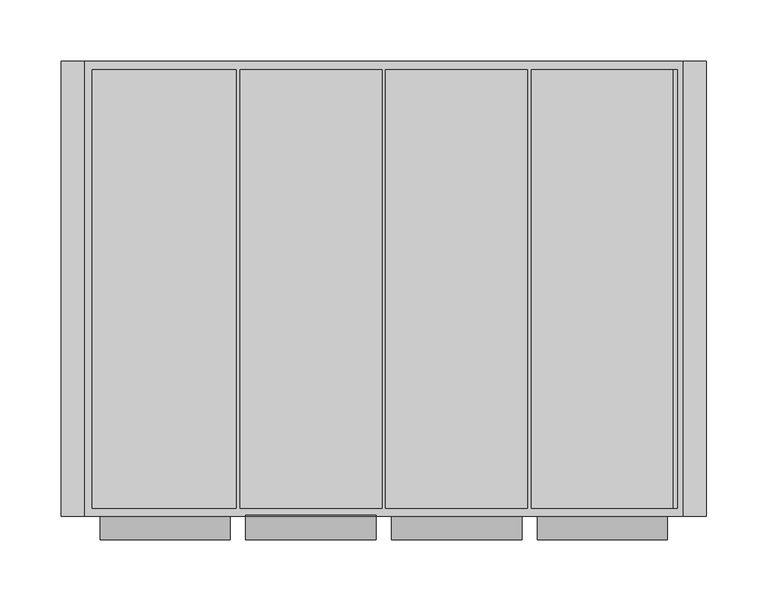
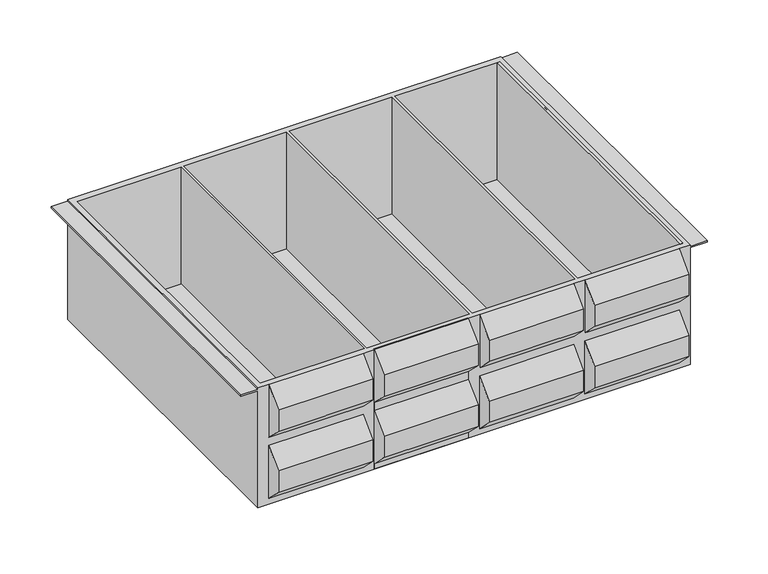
"""IFC4 building model written with IfcOpenShell, lengths in millimetres: furniture geometry."""

from ifc_helpers import new_model, si_unit, frame, origin, place, context, project, spatial, polyline, outline, extrude, faceted_brep, source, transform, mapped, element, save


def furniture_066802e6(model_context):
    return source(origin(), model_context, "Body", "SolidModel", [
        extrude(outline(polyline([(-188.9125, 1922.462503), (-169.8625, 1941.518853), (-169.8625, 1951.0438485), (-188.9125, 1970.0874985), (-188.9125, 1995.4875004), (-169.8498034, 2014.550197), (-169.06875, 2014.550197), (-169.06875, 1871.675197), (-169.8625, 1871.675197), (-169.8625, 1878.0252), (-188.9125, 1897.0625), (-188.9125, 1922.462503)])), frame((-119.0625, 0.0, 0.0), z_axis=(1.0, 0.0, 0.0), x_axis=(0.0, 1.0, 0.0)), (0.0, 0.0, 1.0), 106.3625),
        extrude(outline(polyline([(233.3752, 194.6275), (233.3752, -163.5125), (230.2002, -163.5125), (230.2002, 194.6275), (233.3752, 194.6275)])), frame((0.0, 0.0, 1874.7013688), z_axis=(0.0, 0.0, 1.0), x_axis=(1.0, 0.0, 0.0)), (0.0, 0.0, 1.0), 139.8488281),
        faceted_brep([(-238.125, -169.8625, 2014.550197), (-250.825, -169.8625, 2014.550197), (-250.825, -169.8625, 2012.95), (-269.875, -169.8625, 2012.95), (-269.875, -169.8625, 2011.3625), (-250.825, -169.8625, 2011.3625), (-250.825, -169.8625, 1871.675197), (238.125, -169.8625, 1871.675197), (238.125, -169.8625, 2011.3625), (257.175, -169.8625, 2011.3625), (257.175, -169.8625, 2012.95), (238.125, -169.8625, 2012.95), (238.125, -169.8625, 2014.550197), (225.4377, -169.8625, 2014.550197), (225.4377, -169.8625, 1951.0438484), (119.0625, -169.8625, 1951.0438484), (119.0625, -169.8625, 2014.550197), (106.3625, -169.8625, 2014.550197), (106.3625, -169.8625, 1951.0438485), (0.0, -169.8625, 1951.0438485), (0.0, -169.8625, 2014.550197), (-131.7625, -169.8625, 2014.550197), (-131.7625, -169.8625, 1951.0438485), (-238.125, -169.8625, 1951.0438485), (-131.7625, -169.8625, 1941.518853), (-131.7625, -169.8625, 1878.0252), (-238.125, -169.8625, 1878.0252), (-238.125, -169.8625, 1941.518853), (106.3625, -169.8625, 1941.518853), (106.3625, -169.8625, 1878.0252), (0.0, -169.8625, 1878.0252), (0.0, -169.8625, 1941.518853), (119.0625, -169.8625, 1878.0251999), (119.0625, -169.8625, 1941.5188529), (225.4377, -169.8625, 1941.5188529), (225.4377, -169.8625, 1878.0251999), (-250.825, 201.6125, 2014.550197), (238.125, 201.6125, 2014.550197), (238.125, 201.6125, 2012.95), (257.175, 201.6125, 2012.95), (257.175, 201.6125, 2011.3625), (238.125, 201.6125, 2011.3625), (238.125, 201.6125, 1871.675197), (-250.825, 201.6125, 1871.675197), (-250.825, 201.6125, 2011.3625), (-269.875, 201.6125, 2011.3625), (-269.875, 201.6125, 2012.95), (-250.825, 201.6125, 2012.95), (-244.475, 194.6275, 2014.550197), (-127.0, 194.6275, 2014.550197), (-127.0, -163.5125, 2014.550197), (-244.475, -163.5125, 2014.550197), (-7.9375, -163.5125, 2014.550197), (-123.825, -163.5125, 2014.550197), (-123.825, 194.6275, 2014.550197), (-7.9375, 194.6275, 2014.550197), (111.125, -163.5125, 2014.550197), (-4.7625, -163.5125, 2014.550197), (-4.7625, 194.6275, 2014.550197), (111.125, 194.6275, 2014.550197), (231.775, 194.6275, 2014.550197), (231.775, -163.5125, 2014.550197), (114.3, -163.5125, 2014.550197), (114.3, 194.6275, 2014.550197), (-131.7625, -188.9125, 1922.462503), (-131.7625, -188.9125, 1897.0625), (-131.7625, -188.9125, 1995.4875004), (-131.7625, -188.9125, 1970.0874985), (-238.125, -188.9125, 1922.462503), (-238.125, -188.9125, 1897.0625), (-238.125, -188.9125, 1970.0874985), (-238.125, -188.9125, 1995.4875004), (231.775, -163.5125, 1874.7013688), (231.775, 194.6275, 1874.7013688), (114.3, 194.6275, 1874.7013688), (114.3, -163.5125, 1874.7013688), (-244.475, 194.6275, 1874.7013688), (-244.475, -163.5125, 1874.7013688), (-127.0, -163.5125, 1874.7013688), (-127.0, 194.6275, 1874.7013688), (-4.7625, -163.5125, 1874.7013688), (111.125, -163.5125, 1874.7013688), (111.125, 194.6275, 1874.7013688), (-4.7625, 194.6275, 1874.7013688), (-123.825, -163.5125, 1874.7013688), (-7.9375, -163.5125, 1874.7013688), (-7.9375, 194.6275, 1874.7013688), (-123.825, 194.6275, 1874.7013688), (106.3625, -188.9125, 1922.462503), (106.3625, -188.9125, 1897.0625), (106.3625, -188.9125, 1995.4875004), (106.3625, -188.9125, 1970.0874985), (0.0, -188.9125, 1922.462503), (0.0, -188.9125, 1897.0625), (0.0, -188.9125, 1970.0874985), (0.0, -188.9125, 1995.4875004), (119.0625, -188.9125, 1922.462503), (119.0625, -188.9125, 1897.0625), (119.0625, -188.9125, 1970.0874985), (119.0625, -188.9125, 1995.4875004), (225.4377, -188.9125, 1922.462503), (225.4377, -188.9125, 1897.0625), (225.4377, -188.9125, 1995.4875004), (225.4377, -188.9125, 1970.0874985)], [[[0, 1, 2, 3, 4, 5, 6, 7, 8, 9, 10, 11, 12, 13, 14, 15, 16, 17, 18, 19, 20, 21, 22, 23], [24, 25, 26, 27], [28, 29, 30, 31], [32, 33, 34, 35]], [[36, 37, 38, 39, 40, 41, 42, 43, 44, 45, 46, 47]], [[43, 42, 7, 6]], [[7, 42, 41, 8]], [[37, 12, 11, 38]], [[37, 36, 1, 0, 21, 20, 17, 16, 13, 12], [48, 49, 50, 51], [52, 53, 54, 55], [56, 57, 58, 59], [60, 61, 62, 63]], [[43, 6, 5, 44]], [[1, 36, 47, 2]], [[64, 65, 25, 24]], [[21, 66, 67, 22]], [[68, 27, 26, 69]], [[23, 70, 71, 0]], [[65, 64, 68, 69]], [[25, 65, 69, 26]], [[66, 21, 0, 71]], [[67, 66, 71, 70]], [[22, 67, 70, 23]], [[64, 24, 27, 68]], [[72, 73, 74, 75]], [[76, 77, 78, 79]], [[80, 81, 82, 83]], [[84, 85, 86, 87]], [[53, 52, 85, 84]], [[57, 56, 81, 80]], [[61, 72, 75, 62]], [[77, 51, 50, 78]], [[73, 72, 61, 60]], [[55, 54, 87, 86]], [[59, 58, 83, 82]], [[73, 60, 63, 74]], [[48, 76, 79, 49]], [[77, 76, 48, 51]], [[88, 89, 29, 28]], [[17, 90, 91, 18]], [[92, 31, 30, 93]], [[19, 94, 95, 20]], [[89, 88, 92, 93]], [[29, 89, 93, 30]], [[90, 17, 20, 95]], [[91, 90, 95, 94]], [[18, 91, 94, 19]], [[88, 28, 31, 92]], [[96, 33, 32, 97]], [[15, 98, 99, 16]], [[100, 101, 35, 34]], [[13, 102, 103, 14]], [[33, 96, 100, 34]], [[98, 15, 14, 103]], [[99, 98, 103, 102]], [[16, 99, 102, 13]], [[97, 32, 35, 101]], [[96, 97, 101, 100]], [[46, 45, 4, 3]], [[47, 46, 3, 2]], [[45, 44, 5, 4]], [[41, 40, 9, 8]], [[39, 38, 11, 10]], [[40, 39, 10, 9]], [[54, 53, 84, 87]], [[50, 49, 79, 78]], [[63, 62, 75, 74]], [[56, 59, 82, 81]], [[58, 57, 80, 83]], [[52, 55, 86, 85]]]),
    ])


if __name__ == "__main__":
    model = new_model("IFC4")
    model_context = context("Model", 3, world=origin())
    ifc_project = project(units=[si_unit("LENGTHUNIT", "METRE", prefix="MILLI")], contexts=[model_context])
    site = spatial("IfcSite", under=ifc_project)
    building = spatial("IfcBuilding", under=site)
    placement = place(None, origin())
    furniture_shape = furniture_066802e6(model_context)
    element("IfcFurniture", 1, ObjectType="HermanMiller_Carts_CT542_Cassette : 6\"H x 15\"D x 20\"W Bin", at=placement, inside=building, context=model_context, shape_type="MappedRepresentation", body=[
        mapped(furniture_shape, transform((0.0, 0.0, 0.0), x_axis=(1.0, 0.0, 0.0), y_axis=(0.0, 1.0, 0.0), z_axis=(0.0, 0.0, 1.0))),
    ])
    save(model, "model.ifc")
